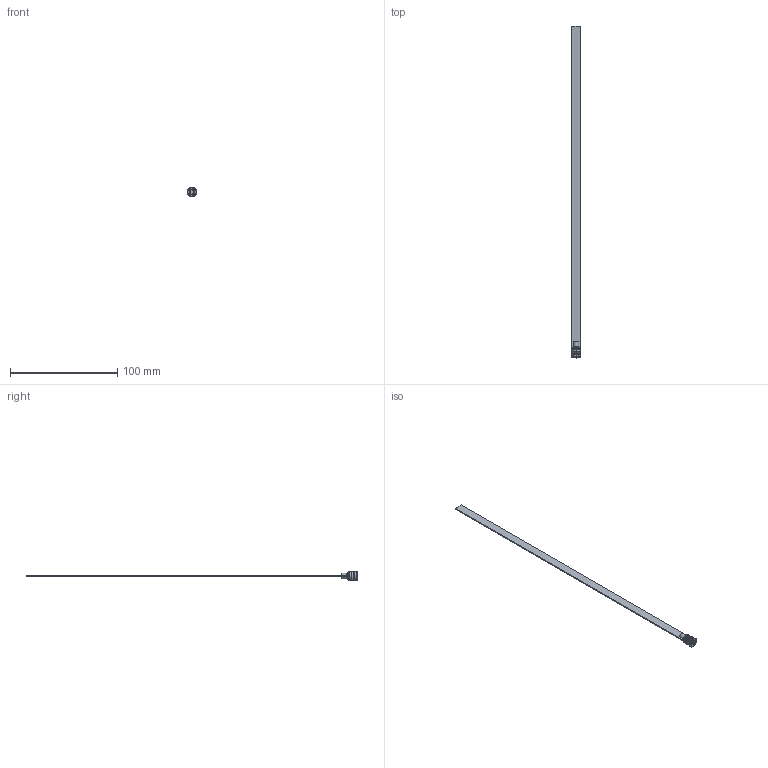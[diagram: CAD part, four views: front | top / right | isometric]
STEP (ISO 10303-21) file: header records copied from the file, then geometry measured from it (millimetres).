
FILE_DESCRIPTION (( 'STEP AP203' ), '1' );
FILE_NAME ('RL-8Fx300.STEP', '2015-12-01T16:06:53', ( 'Balzi' ), ( '' ), 'SwSTEP 2.0', 'SolidWorks 2015', '' );
FILE_SCHEMA (( 'CONFIG_CONTROL_DESIGN' ));
Length unit declared in the file: millimetre
Products named in the file (1): RL-8Fx300
Bounding box: 9 x 309.5 x 9 mm (x, y, z)
Volume: 2832.2 mm3; surface area: 5846.3 mm2
Topology: 1 solids, 1 shells, 72 faces, 171 edges, 105 vertices
Faces by surface type: plane 30, cone 17, cylinder 17, torus 8
Entity records: 2165 total; most frequent: CARTESIAN_POINT 399, DIRECTION 370, ORIENTED_EDGE 342, EDGE_CURVE 171, AXIS2_PLACEMENT_3D 140, VERTEX_POINT 105, LINE 90, VECTOR 90
